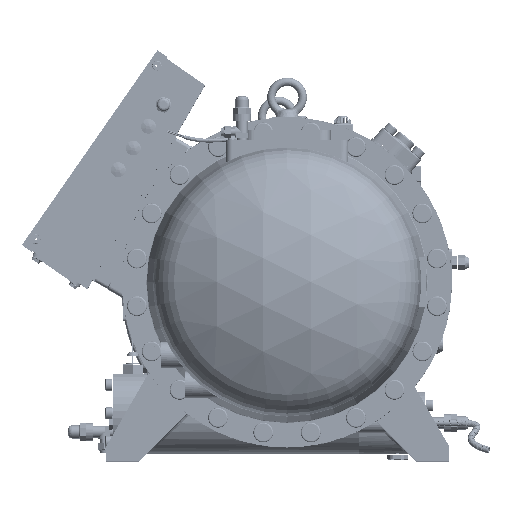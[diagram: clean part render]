
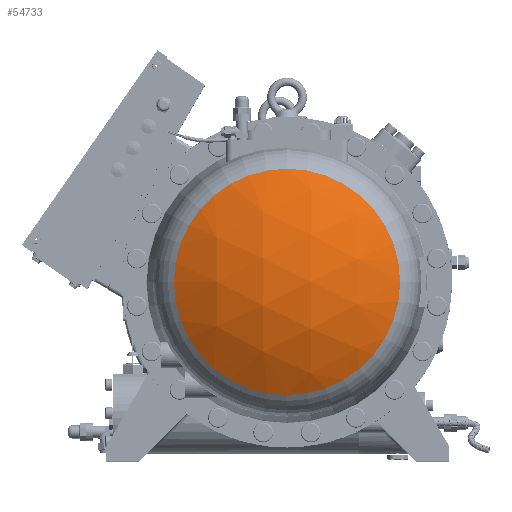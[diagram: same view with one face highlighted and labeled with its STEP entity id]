
A CAD part, top view. The second image highlights one B-rep face of the part: STEP entity #54733.
In plain terms, the highlighted spherical face has radius 319 mm.
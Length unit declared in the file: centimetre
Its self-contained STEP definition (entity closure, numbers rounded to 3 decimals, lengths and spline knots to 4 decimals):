
#435=SPHERICAL_SURFACE('',#60585,31.9);
#14479=FACE_OUTER_BOUND('',#17782,.T.);
#17782=EDGE_LOOP('',(#49307));
#21740=CIRCLE('',#60584,17.1239);
#28411=VERTEX_POINT('',#134434);
#37260=EDGE_CURVE('',#28411,#28411,#21740,.T.);
#49307=ORIENTED_EDGE('',*,*,#37260,.F.);
#54733=ADVANCED_FACE('',(#14479),#435,.T.);
#60584=AXIS2_PLACEMENT_3D('',#134435,#74942,#74943);
#60585=AXIS2_PLACEMENT_3D('',#134436,#74944,#74945);
#74942=DIRECTION('center_axis',(0.,0.,
-1.));
#74943=DIRECTION('ref_axis',(-1.,0.,0.));
#74944=DIRECTION('center_axis',(1.,0.,0.));
#74945=DIRECTION('ref_axis',(0.,1.,0.));
#134434=CARTESIAN_POINT('',(1.4,-15.7239,51.9643));
#134435=CARTESIAN_POINT('Origin',(1.4,1.4,51.9643));
#134436=CARTESIAN_POINT('Origin',(1.4,1.4,25.05));
